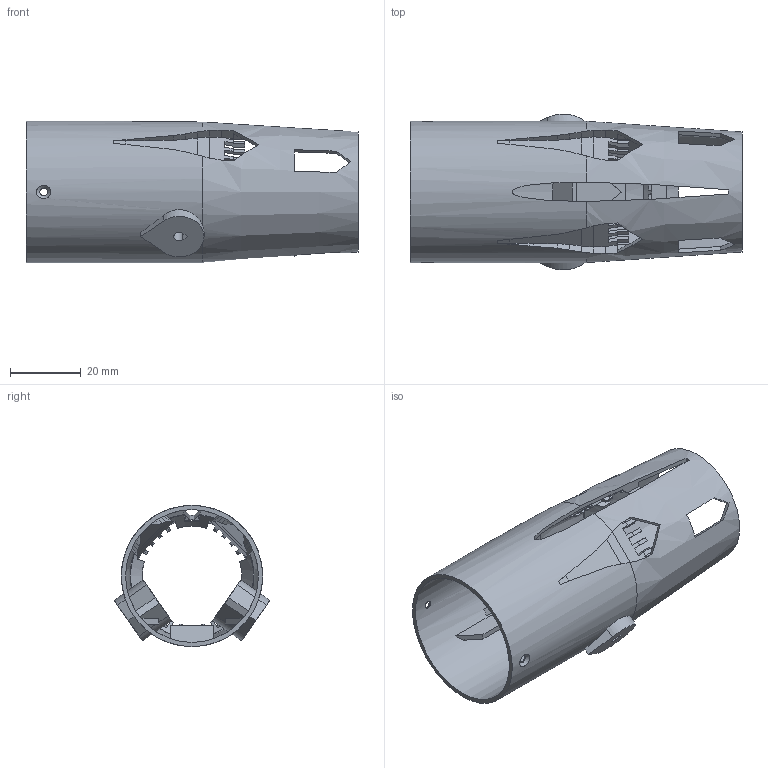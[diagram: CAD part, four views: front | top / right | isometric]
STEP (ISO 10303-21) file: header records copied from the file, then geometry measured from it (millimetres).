
FILE_DESCRIPTION(('SkyG Speed 90B - revision C6B-4 - 2026-10-08','F3-tail-module'),'2;1');
FILE_NAME('F3-tail-module_C6B-4','2026-10-08T07:02:31',('Author'),( 'Open CASCADE'),'Open CASCADE STEP processor 7.9','Open CASCADE 7.9' ,'Unknown');
FILE_SCHEMA(('AUTOMOTIVE_DESIGN { 1 0 10303 214 1 1 1 1 }'));
Length unit declared in the file: millimetre
Products named in the file (1): F3-tail-module C6B-4
Bounding box: 94 x 44.07 x 40 mm (x, y, z)
Volume: 17320.1 mm3; surface area: 24331.8 mm2
Topology: 1 solids, 1 shells, 405 faces, 1222 edges, 813 vertices
Faces by surface type: plane 287, cylinder 66, bspline 42, cone 10
Full cylindrical faces by diameter (mm): 2.2 x2, 37.6 x1, 40 x1
Entity records: 36502 total; most frequent: CARTESIAN_POINT 15062, DIRECTION 3100, ORIENTED_EDGE 2444, PCURVE 2444, DEFINITIONAL_REPRESENTATION 2444, B_SPLINE_CURVE_WITH_KNOTS 1573, LINE 1549, VECTOR 1549
